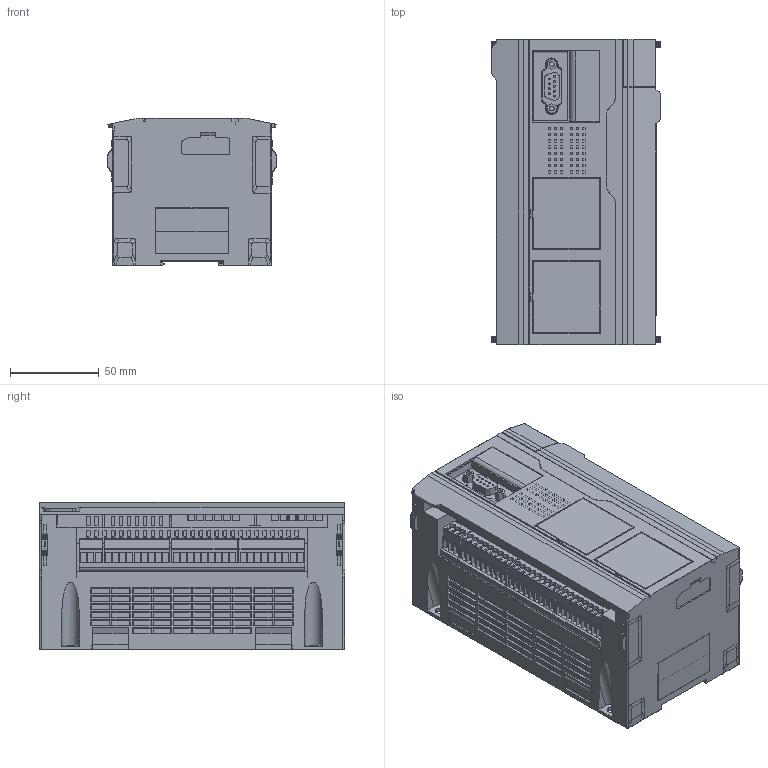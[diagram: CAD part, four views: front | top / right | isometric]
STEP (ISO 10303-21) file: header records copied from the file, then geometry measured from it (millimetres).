
FILE_DESCRIPTION((''),'2;1');
FILE_NAME('FL3-40-TOP_1','2022-10-26T17:14:25',('flexem'),(''),'CREO PARAMETRIC BY PTC INC, 2016510','CREO PARAMETRIC BY PTC INC, 2016510','');
FILE_SCHEMA(('CONFIG_CONTROL_DESIGN'));
Products named in the file (1): FL3-40-TOP_1
Bounding box: 95.6 x 172.3 x 83.1 mm (x, y, z)
Volume: 1140074.4 mm3; surface area: 137812.4 mm2
Topology: 1 solids, 46 shells, 3635 faces, 9413 edges, 6233 vertices
Faces by surface type: plane 3119, cylinder 394, cone 53, sphere 21, torus 20, bspline 18, extrusion 10
Entity records: 111606 total; most frequent: CARTESIAN_POINT 22871, ORIENTED_EDGE 18788, DIRECTION 16901, EDGE_CURVE 9394, VECTOR 8109, LINE 8099, VERTEX_POINT 6233, AXIS2_PLACEMENT_3D 4396
